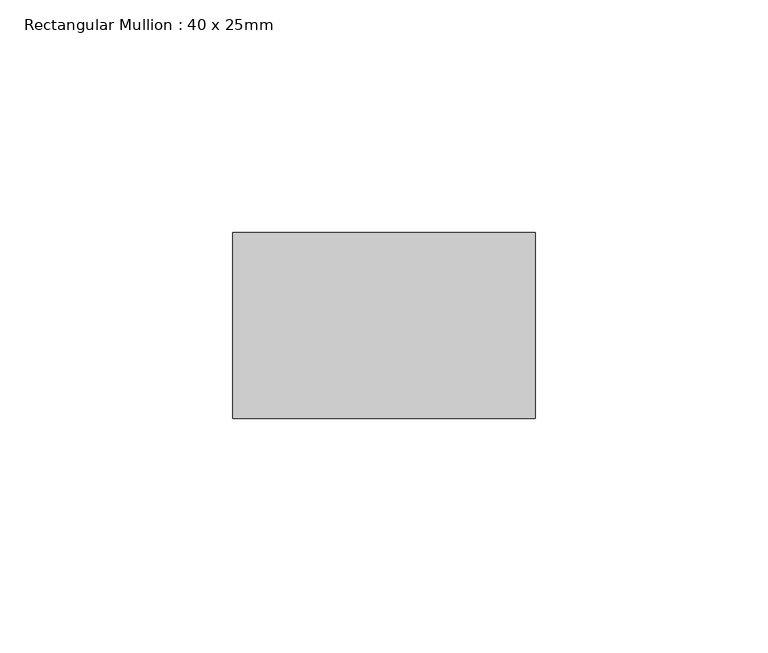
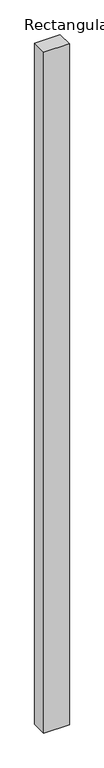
"""IFC4 building model written with IfcOpenShell, lengths in millimetres: member geometry, Rectangular Mullion : 40 x 25mm."""

import ifcopenshell
import ifcopenshell.guid

model = None  # the IFC model being written
_history = None  # IfcOwnerHistory: only IFC2X3 demands one
_inside = {}  # id of a spatial element -> (the spatial element, [elements in it])
_under = {}  # id of a project, library or spatial element -> (it, [spatial elements below it])
_declared = {}  # id of a project -> (the project, [libraries it declares])
_typed = {}  # id of a type object -> (the type object, [elements of that type])
_made_of = {}  # id of a material, layer set ... -> (it, [elements and type objects made of it])


def new_model(schema):
    """Start an empty IFC model of exactly this schema.

    Asked for "IFC4X3", IfcOpenShell would pick the latest addendum, in which some entities
    have other attributes; the version numbers below select the first issue.
    IFC2X3 requires an IfcOwnerHistory on every rooted entity: one is made here for all.
    """
    global model, _history
    if schema == "IFC4X3":
        model = ifcopenshell.file(schema_version=(4, 3, 0, 0))
    else:
        model = ifcopenshell.file(schema=schema)
    _inside.clear()
    _under.clear()
    _declared.clear()
    _typed.clear()
    _made_of.clear()
    _history = None
    if model.schema == "IFC2X3":
        org = make("IfcOrganization", Name="unknown")
        user = make(
            "IfcPersonAndOrganization",
            ThePerson=make("IfcPerson", FamilyName="unknown"),
            TheOrganization=org,
        )
        app = make(
            "IfcApplication",
            ApplicationDeveloper=org,
            Version="unknown",
            ApplicationFullName="unknown",
            ApplicationIdentifier="unknown",
        )
        _history = make(
            "IfcOwnerHistory",
            OwningUser=user,
            OwningApplication=app,
            ChangeAction="ADDED",
            CreationDate=0,
        )
    return model


def make(cls, **values):
    """One entity of the class cls with the attributes given. An attribute that is None is left unset."""
    return model.create_entity(
        cls, **{name: value for name, value in values.items() if value is not None}
    )


def rooted(cls, **values):
    """An entity with a GlobalId (a new one), such as an element, a storey or a relation."""
    return make(cls, GlobalId=ifcopenshell.guid.new(), OwnerHistory=_history, **values)


def si_unit(unit_type, name, prefix=None):
    """IfcSIUnit, for example si_unit("LENGTHUNIT", "METRE", prefix="MILLI")."""
    return make("IfcSIUnit", UnitType=unit_type, Prefix=prefix, Name=name)


def assignment(units):
    """IfcUnitAssignment: the units of a project."""
    return None if units is None else make("IfcUnitAssignment", Units=units)


def point(xyz):
    """IfcCartesianPoint."""
    return None if xyz is None else make("IfcCartesianPoint", Coordinates=xyz)


def direction(xyz):
    """IfcDirection."""
    return None if xyz is None else make("IfcDirection", DirectionRatios=xyz)


def frame(location, z_axis=None, x_axis=None):
    """IfcAxis2Placement3D, a coordinate frame: its origin and axes. An axis left out is left unset."""
    return make(
        "IfcAxis2Placement3D",
        Location=point(location),
        Axis=direction(z_axis),
        RefDirection=direction(x_axis),
    )


def origin():
    """The frame at (0, 0, 0) with its axes left unset."""
    return frame((0.0, 0.0, 0.0))


def place(relative_to, where):
    """IfcLocalPlacement: puts the frame where relative to a parent placement (None: the world)."""
    return make(
        "IfcLocalPlacement", PlacementRelTo=relative_to, RelativePlacement=where
    )


def context(
    kind, dimensions, precision=None, world=None, true_north=None, identifier=None
):
    """IfcGeometricRepresentationContext, for example the 3D "Model" context."""
    return make(
        "IfcGeometricRepresentationContext",
        ContextIdentifier=identifier,
        ContextType=kind,
        CoordinateSpaceDimension=dimensions,
        Precision=precision,
        WorldCoordinateSystem=world,
        TrueNorth=true_north,
    )


def project(units=None, contexts=None):
    """IfcProject with its units and contexts."""
    return rooted(
        "IfcProject",
        Name="project",
        RepresentationContexts=contexts,
        UnitsInContext=assignment(units),
    )


def spatial(cls, under=None, at=None, **own):
    """A site, building, storey or space (cls), placed at a placement, below another one or the project."""
    s = rooted(cls, ObjectPlacement=at, **own)
    if under is not None:
        _under.setdefault(under.id(), (under, []))[1].append(s)
    return s


def polyline(points):
    """IfcPolyline through the points."""
    return make("IfcPolyline", Points=[point(p) for p in points])


def outline(outer, holes=None, kind="AREA"):
    """IfcArbitraryClosedProfileDef: a profile drawn as a closed curve; with holes, ...WithVoids."""
    if holes is None:
        return make("IfcArbitraryClosedProfileDef", ProfileType=kind, OuterCurve=outer)
    return make(
        "IfcArbitraryProfileDefWithVoids",
        ProfileType=kind,
        OuterCurve=outer,
        InnerCurves=holes,
    )


def extrude(swept, where, along, depth):
    """IfcExtrudedAreaSolid: the profile swept, set in the frame where, extruded along a direction by depth."""
    return make(
        "IfcExtrudedAreaSolid",
        SweptArea=swept,
        Position=where,
        ExtrudedDirection=direction(along),
        Depth=depth,
    )


def shape(context_of_items, identifier, shape_type, items):
    """IfcShapeRepresentation: the items that make up one representation, for example the "Body"."""
    return make(
        "IfcShapeRepresentation",
        ContextOfItems=context_of_items,
        RepresentationIdentifier=identifier,
        RepresentationType=shape_type,
        Items=items,
    )


def source(mapping_origin, context_of_items, identifier, shape_type, items):
    """IfcRepresentationMap: a shape defined once, which mapped items show again and again."""
    return make(
        "IfcRepresentationMap",
        MappingOrigin=mapping_origin,
        MappedRepresentation=shape(context_of_items, identifier, shape_type, items),
    )


def transform(
    local_origin,
    x_axis=None,
    y_axis=None,
    z_axis=None,
    scale=None,
    scale2=None,
    scale3=None,
    uniform=True,
):
    """IfcCartesianTransformationOperator3D, or its non-uniform kind. x_axis, y_axis, z_axis: its Axis1, 2, 3."""
    if uniform:
        return make(
            "IfcCartesianTransformationOperator3D",
            Axis1=direction(x_axis),
            Axis2=direction(y_axis),
            LocalOrigin=point(local_origin),
            Scale=scale,
            Axis3=direction(z_axis),
        )
    return make(
        "IfcCartesianTransformationOperator3DnonUniform",
        Axis1=direction(x_axis),
        Axis2=direction(y_axis),
        LocalOrigin=point(local_origin),
        Scale=scale,
        Axis3=direction(z_axis),
        Scale2=scale2,
        Scale3=scale3,
    )


def mapped(mapping_source, mapping_target):
    """IfcMappedItem: shows the shape of a source again, moved by a transform."""
    return make(
        "IfcMappedItem", MappingSource=mapping_source, MappingTarget=mapping_target
    )


def made_of(thing, what):
    """Note that an element or type object is made of a material, layer set ...; save() writes the relation."""
    if what is not None:
        _made_of.setdefault(what.id(), (what, []))[1].append(thing)
    return thing


def element(
    cls,
    number,
    at=None,
    inside=None,
    cuts=None,
    type_object=None,
    material=None,
    context=None,
    identifier="Body",
    shape_type=None,
    held_by="IfcProductDefinitionShape",
    body=None,
    shapes=None,
    **own,
):
    """One element of the class cls, such as IfcWall. Its Tag is "e" and its number.

    at: its placement. inside: the storey or other place that contains it. cuts: it is an
    opening in that element (IfcRelVoidsElement). A single representation is given by context,
    identifier, shape_type and body (its items); several are given by shapes. held_by: the class
    of the entity that holds the representations. save() writes the other relations.
    """
    e = rooted(cls, Tag="e%d" % number, ObjectPlacement=at, **own)
    if body is not None:
        shapes = [shape(context, identifier, shape_type, body)]
    if shapes is not None:
        e.Representation = make(held_by, Representations=shapes)
    if inside is not None:
        _inside.setdefault(inside.id(), (inside, []))[1].append(e)
    if cuts is not None:
        rooted(
            "IfcRelVoidsElement", RelatingBuildingElement=cuts, RelatedOpeningElement=e
        )
    if type_object is not None:
        _typed.setdefault(type_object.id(), (type_object, []))[1].append(e)
    return made_of(e, material)


def aggregate(whole, parts):
    """IfcRelAggregates: a whole, such as a stair, and the parts it consists of."""
    return rooted("IfcRelAggregates", RelatingObject=whole, RelatedObjects=parts)


def save(model, path):
    """Write the relations noted so far, then the file.

    IfcRelAggregates (storeys below a building ...), IfcRelContainedInSpatialStructure (elements
    in a storey), IfcRelDefinesByType, IfcRelAssociatesMaterial and IfcRelDeclares: one each for
    every whole, place, type object, material and project.
    """
    for whole, parts in _under.values():
        aggregate(whole, parts)
    for where, things in _inside.values():
        rooted(
            "IfcRelContainedInSpatialStructure",
            RelatedElements=things,
            RelatingStructure=where,
        )
    for kind, things in _typed.values():
        rooted("IfcRelDefinesByType", RelatedObjects=things, RelatingType=kind)
    for what, things in _made_of.values():
        rooted("IfcRelAssociatesMaterial", RelatedObjects=things, RelatingMaterial=what)
    for by, libraries in _declared.values():
        rooted("IfcRelDeclares", RelatingContext=by, RelatedDefinitions=libraries)
    model.write(path)


def rectangular_mullion_40_x_25mm_cef3b164(model_context):
    return source(origin(), model_context, "Body", "SweptSolid", [
        extrude(outline(polyline([(0.0, -20.0), (0.0, -60.0), (-65.0, -60.0), (-65.0, -20.0), (0.0, -20.0)])), frame((0.0, 0.0, -1829.9), z_axis=(0.0, 0.0, 1.0), x_axis=(1.0, 0.0, 0.0)), (0.0, 0.0, 1.0), 1829.9),
    ])


if __name__ == "__main__":
    model = new_model("IFC4")
    model_context = context("Model", 3, world=origin())
    ifc_project = project(units=[si_unit("LENGTHUNIT", "METRE", prefix="MILLI")], contexts=[model_context])
    site = spatial("IfcSite", under=ifc_project)
    building = spatial("IfcBuilding", under=site)
    placement = place(None, origin())
    rectangular_mullion_40_x_25mm_shape = rectangular_mullion_40_x_25mm_cef3b164(model_context)
    element("IfcMember", 1, ObjectType="Rectangular Mullion : 40 x 25mm", at=placement, inside=building, context=model_context, shape_type="MappedRepresentation", body=[
        mapped(rectangular_mullion_40_x_25mm_shape, transform((0.0, 0.0, 0.0), x_axis=(1.0, 0.0, 0.0), y_axis=(0.0, 1.0, 0.0), z_axis=(0.0, 0.0, 1.0))),
    ])
    save(model, "model.ifc")
